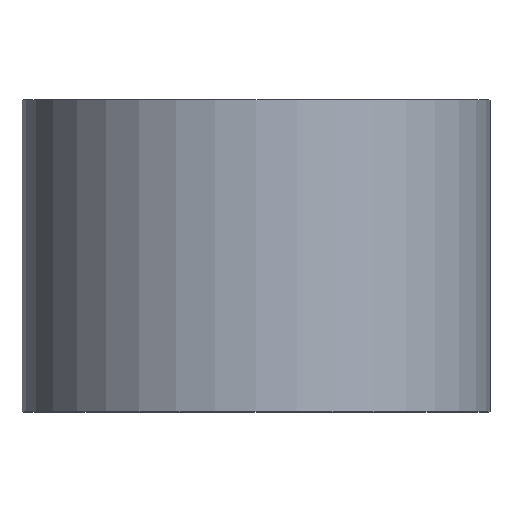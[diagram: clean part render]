
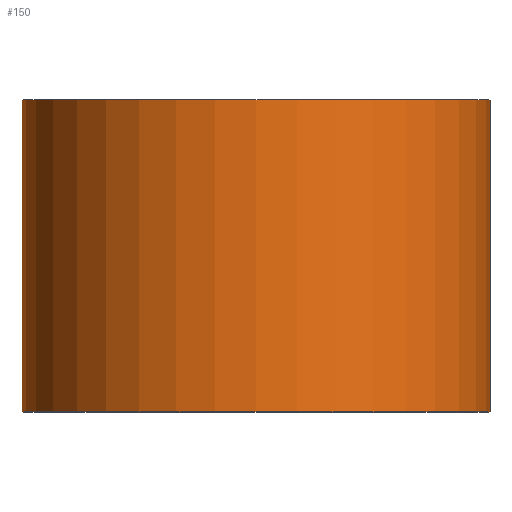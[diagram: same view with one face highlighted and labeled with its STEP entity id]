
A CAD part, top view. The second image highlights one B-rep face of the part: STEP entity #150.
In plain terms, the highlighted cylindrical face has radius 9 mm (diameter 18 mm), a partial arc.
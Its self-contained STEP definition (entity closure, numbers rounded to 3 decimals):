
#13 = CARTESIAN_POINT ( 'NONE',  ( 9., 0., 0. ) ) ;
#20 = CARTESIAN_POINT ( 'NONE',  ( -9., 0., 0. ) ) ;
#21 = FACE_OUTER_BOUND ( 'NONE', #136, .T. ) ;
#28 = DIRECTION ( 'NONE',  ( 0., 1., 0. ) ) ;
#34 = CARTESIAN_POINT ( 'NONE',  ( 0., 0., 0. ) ) ;
#45 = ORIENTED_EDGE ( 'NONE', *, *, #260, .T. ) ;
#50 = CIRCLE ( 'NONE', #295, 9. ) ;
#52 = VECTOR ( 'NONE', #73, 1000. ) ;
#54 = EDGE_CURVE ( 'NONE', #189, #101, #50, .T. ) ;
#73 = DIRECTION ( 'NONE',  ( 0., 1., 0. ) ) ;
#87 = AXIS2_PLACEMENT_3D ( 'NONE', #131, #292, #104 ) ;
#92 = ORIENTED_EDGE ( 'NONE', *, *, #205, .T. ) ;
#101 = VERTEX_POINT ( 'NONE', #236 ) ;
#104 = DIRECTION ( 'NONE',  ( -1., 0., 0. ) ) ;
#111 = CIRCLE ( 'NONE', #87, 9. ) ;
#131 = CARTESIAN_POINT ( 'NONE',  ( 0., 0., 0. ) ) ;
#133 = DIRECTION ( 'NONE',  ( 0., 1., 0. ) ) ;
#136 = EDGE_LOOP ( 'NONE', ( #45, #92, #192, #179 ) ) ;
#146 = AXIS2_PLACEMENT_3D ( 'NONE', #34, #283, #198 ) ;
#150 = ADVANCED_FACE ( 'NONE', ( #21 ), #252, .T. ) ;
#163 = CARTESIAN_POINT ( 'NONE',  ( 0., 12., 0. ) ) ;
#177 = CARTESIAN_POINT ( 'NONE',  ( -9., 0., 0. ) ) ;
#179 = ORIENTED_EDGE ( 'NONE', *, *, #300, .F. ) ;
#188 = DIRECTION ( 'NONE',  ( -1., 0., 0. ) ) ;
#189 = VERTEX_POINT ( 'NONE', #220 ) ;
#192 = ORIENTED_EDGE ( 'NONE', *, *, #54, .F. ) ;
#198 = DIRECTION ( 'NONE',  ( -1., 0., 0. ) ) ;
#205 = EDGE_CURVE ( 'NONE', #284, #101, #293, .T. ) ;
#219 = VECTOR ( 'NONE', #133, 1000. ) ;
#220 = CARTESIAN_POINT ( 'NONE',  ( -9., 12., 0. ) ) ;
#221 = CARTESIAN_POINT ( 'NONE',  ( 9., 0., 0. ) ) ;
#236 = CARTESIAN_POINT ( 'NONE',  ( 9., 12., 0. ) ) ;
#252 = CYLINDRICAL_SURFACE ( 'NONE', #146, 9. ) ;
#260 = EDGE_CURVE ( 'NONE', #290, #284, #111, .T. ) ;
#273 = LINE ( 'NONE', #177, #219 ) ;
#283 = DIRECTION ( 'NONE',  ( 0., 1., 0. ) ) ;
#284 = VERTEX_POINT ( 'NONE', #13 ) ;
#290 = VERTEX_POINT ( 'NONE', #20 ) ;
#292 = DIRECTION ( 'NONE',  ( 0., 1., 0. ) ) ;
#293 = LINE ( 'NONE', #221, #52 ) ;
#295 = AXIS2_PLACEMENT_3D ( 'NONE', #163, #28, #188 ) ;
#300 = EDGE_CURVE ( 'NONE', #290, #189, #273, .T. ) ;
